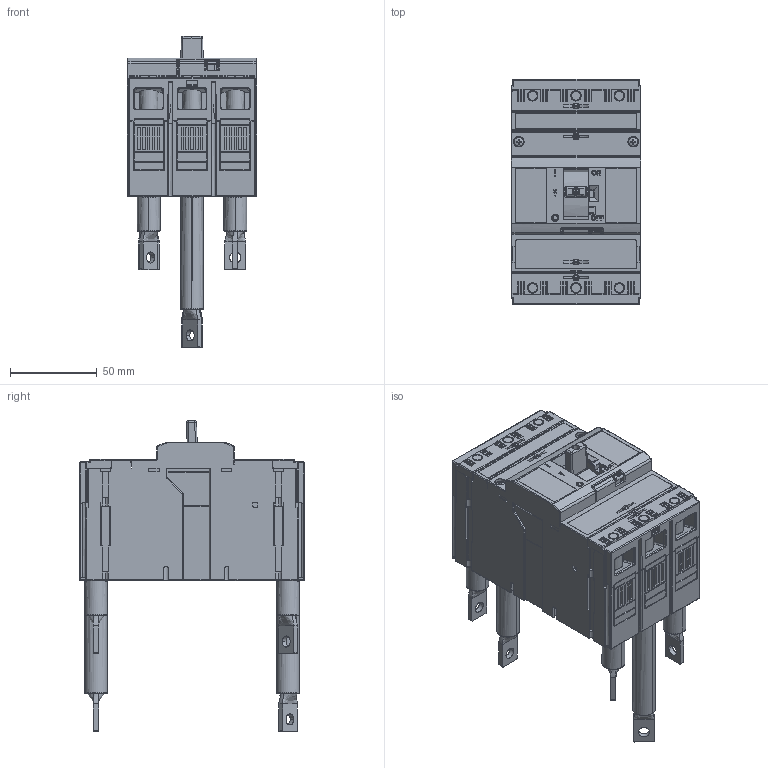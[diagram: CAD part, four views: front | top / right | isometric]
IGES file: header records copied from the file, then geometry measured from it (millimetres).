
Start section: SolidWorks IGES file using analytic representation for surfaces
Global section: file name: U:\14_RD\05_Technical_office\04_Office\Hrdinova\3D modely - IGES\Modeion\BC160NT305__CS-BC-A021.IGS; native system: SolidWorks 2011; preprocessor: SolidWorks 2011; author: adhrja3; date: 170615.121244; units: millimetre
Bounding box: 75 x 130 x 179.7 mm (x, y, z)
Surface area: 129283.9 mm2 (no closed solid volume)
Topology: 0 solids, 0 shells, 3553 faces, 30657 edges, 30603 vertices
Faces by surface type: bspline 2370, revolution 1183
